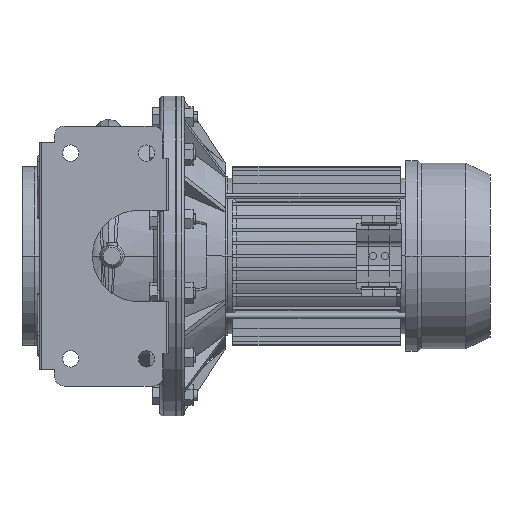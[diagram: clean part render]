
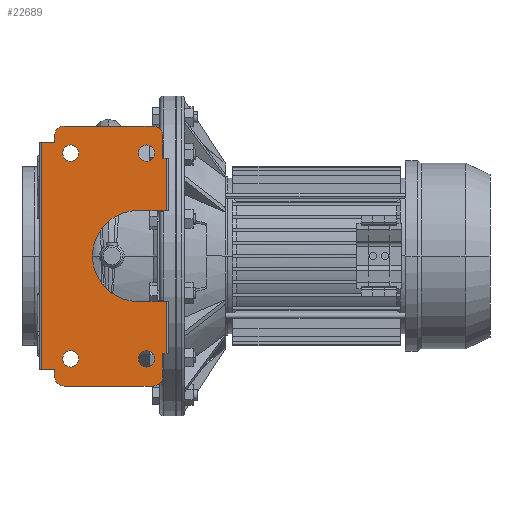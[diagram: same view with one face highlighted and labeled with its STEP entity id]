
A CAD part, front view. The second image highlights one B-rep face of the part: STEP entity #22689.
In plain terms, the highlighted planar face has unit normal (0, -1, 0).
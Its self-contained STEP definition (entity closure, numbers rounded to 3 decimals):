
#19076=CARTESIAN_POINT('',(35.,-160.,-95.));
#19077=DIRECTION('',(0.,-1.,0.));
#19078=DIRECTION('',(1.,0.,0.));
#19079=AXIS2_PLACEMENT_3D('',#19076,#19077,#19078);
#19084=CARTESIAN_POINT('',(35.,-160.,-95.));
#19085=DIRECTION('',(0.,-1.,0.));
#19086=DIRECTION('',(-1.,0.,0.));
#19087=AXIS2_PLACEMENT_3D('',#19084,#19085,#19086);
#19092=CARTESIAN_POINT('',(-35.,-160.,-95.));
#19093=DIRECTION('',(0.,-1.,0.));
#19094=DIRECTION('',(1.,0.,0.));
#19095=AXIS2_PLACEMENT_3D('',#19092,#19093,#19094);
#19100=CARTESIAN_POINT('',(-35.,-160.,-95.));
#19101=DIRECTION('',(0.,-1.,0.));
#19102=DIRECTION('',(-1.,0.,0.));
#19103=AXIS2_PLACEMENT_3D('',#19100,#19101,#19102);
#19108=CARTESIAN_POINT('',(35.,-160.,95.));
#19109=DIRECTION('',(0.,-1.,0.));
#19110=DIRECTION('',(1.,0.,0.));
#19111=AXIS2_PLACEMENT_3D('',#19108,#19109,#19110);
#19116=CARTESIAN_POINT('',(35.,-160.,95.));
#19117=DIRECTION('',(0.,-1.,0.));
#19118=DIRECTION('',(-1.,0.,0.));
#19119=AXIS2_PLACEMENT_3D('',#19116,#19117,#19118);
#19124=CARTESIAN_POINT('',(-35.,-160.,95.));
#19125=DIRECTION('',(0.,-1.,0.));
#19126=DIRECTION('',(1.,0.,0.));
#19127=AXIS2_PLACEMENT_3D('',#19124,#19125,#19126);
#19132=CARTESIAN_POINT('',(-35.,-160.,95.));
#19133=DIRECTION('',(0.,-1.,0.));
#19134=DIRECTION('',(-1.,0.,0.));
#19135=AXIS2_PLACEMENT_3D('',#19132,#19133,#19134);
#19140=DIRECTION('',(0.,0.,1.));
#19141=VECTOR('',#19140,48.);
#19142=CARTESIAN_POINT('',(53.,-160.,-90.));
#19143=LINE('',#19142,#19141);
#19147=DIRECTION('',(0.,0.,-1.));
#19148=VECTOR('',#19147,21.);
#19149=CARTESIAN_POINT('',(50.,-160.,-90.));
#19150=LINE('',#19149,#19148);
#19154=CARTESIAN_POINT('',(41.,-160.,-111.));
#19155=DIRECTION('',(0.,-1.,0.));
#19156=DIRECTION('',(0.,0.,-1.));
#19157=AXIS2_PLACEMENT_3D('',#19154,#19155,#19156);
#19162=DIRECTION('',(-1.,0.,0.));
#19163=VECTOR('',#19162,82.);
#19164=CARTESIAN_POINT('',(41.,-160.,-120.));
#19165=LINE('',#19164,#19163);
#19169=CARTESIAN_POINT('',(-41.,-160.,-111.));
#19170=DIRECTION('',(0.,-1.,0.));
#19171=DIRECTION('',(-1.,0.,0.));
#19172=AXIS2_PLACEMENT_3D('',#19169,#19170,#19171);
#19177=DIRECTION('',(0.,0.,1.));
#19178=VECTOR('',#19177,6.);
#19179=CARTESIAN_POINT('',(-50.,-160.,-111.));
#19180=LINE('',#19179,#19178);
#19184=DIRECTION('',(-1.,0.,0.));
#19185=VECTOR('',#19184,12.);
#19186=CARTESIAN_POINT('',(-50.,-160.,-105.));
#19187=LINE('',#19186,#19185);
#19191=DIRECTION('',(1.,0.,0.));
#19192=VECTOR('',#19191,12.);
#19193=CARTESIAN_POINT('',(-62.,-160.,105.));
#19194=LINE('',#19193,#19192);
#19198=DIRECTION('',(0.,0.,1.));
#19199=VECTOR('',#19198,6.);
#19200=CARTESIAN_POINT('',(-50.,-160.,105.));
#19201=LINE('',#19200,#19199);
#19205=CARTESIAN_POINT('',(-41.,-160.,111.));
#19206=DIRECTION('',(0.,-1.,0.));
#19207=DIRECTION('',(0.,0.,1.));
#19208=AXIS2_PLACEMENT_3D('',#19205,#19206,#19207);
#19213=DIRECTION('',(1.,0.,0.));
#19214=VECTOR('',#19213,82.);
#19215=CARTESIAN_POINT('',(-41.,-160.,120.));
#19216=LINE('',#19215,#19214);
#19220=CARTESIAN_POINT('',(41.,-160.,111.));
#19221=DIRECTION('',(0.,-1.,0.));
#19222=DIRECTION('',(1.,0.,0.));
#19223=AXIS2_PLACEMENT_3D('',#19220,#19221,#19222);
#19228=DIRECTION('',(0.,0.,-1.));
#19229=VECTOR('',#19228,21.);
#19230=CARTESIAN_POINT('',(50.,-160.,111.));
#19231=LINE('',#19230,#19229);
#19235=DIRECTION('',(0.,0.,1.));
#19236=VECTOR('',#19235,48.);
#19237=CARTESIAN_POINT('',(53.,-160.,42.));
#19238=LINE('',#19237,#19236);
#19242=CARTESIAN_POINT('',(27.,-160.,0.));
#19243=DIRECTION('',(0.,-1.,0.));
#19244=DIRECTION('',(0.,0.,1.));
#19245=AXIS2_PLACEMENT_3D('',#19242,#19243,#19244);
#19322=DIRECTION('',(1.,0.,0.));
#19323=VECTOR('',#19322,26.);
#19324=CARTESIAN_POINT('',(27.,-160.,42.));
#19325=LINE('',#19324,#19323);
#19409=DIRECTION('',(-1.,0.,0.));
#19410=VECTOR('',#19409,26.);
#19411=CARTESIAN_POINT('',(53.,-160.,-42.));
#19412=LINE('',#19411,#19410);
#20453=DIRECTION('',(1.,0.,0.));
#20454=VECTOR('',#20453,3.);
#20455=CARTESIAN_POINT('',(50.,-160.,-90.));
#20456=LINE('',#20455,#20454);
#20517=DIRECTION('',(0.,0.,1.));
#20518=VECTOR('',#20517,210.);
#20519=CARTESIAN_POINT('',(-62.,-160.,-105.));
#20520=LINE('',#20519,#20518);
#20575=DIRECTION('',(-1.,0.,0.));
#20576=VECTOR('',#20575,3.);
#20577=CARTESIAN_POINT('',(53.,-160.,90.));
#20578=LINE('',#20577,#20576);
#21746=CARTESIAN_POINT('',(-27.5,-160.,95.));
#21747=CARTESIAN_POINT('',(-42.5,-160.,95.));
#21748=VERTEX_POINT('',#21746);
#21749=VERTEX_POINT('',#21747);
#21750=CARTESIAN_POINT('',(42.5,-160.,95.));
#21751=CARTESIAN_POINT('',(27.5,-160.,95.));
#21752=VERTEX_POINT('',#21750);
#21753=VERTEX_POINT('',#21751);
#21754=CARTESIAN_POINT('',(-27.5,-160.,-95.));
#21755=CARTESIAN_POINT('',(-42.5,-160.,-95.));
#21756=VERTEX_POINT('',#21754);
#21757=VERTEX_POINT('',#21755);
#21758=CARTESIAN_POINT('',(42.5,-160.,-95.));
#21759=CARTESIAN_POINT('',(27.5,-160.,-95.));
#21760=VERTEX_POINT('',#21758);
#21761=VERTEX_POINT('',#21759);
#21762=CARTESIAN_POINT('',(27.,-160.,42.));
#21763=CARTESIAN_POINT('',(27.,-160.,-42.));
#21764=VERTEX_POINT('',#21762);
#21765=VERTEX_POINT('',#21763);
#21782=CARTESIAN_POINT('',(50.,-160.,-90.));
#21784=VERTEX_POINT('',#21782);
#21786=CARTESIAN_POINT('',(-50.,-160.,-105.));
#21788=VERTEX_POINT('',#21786);
#21790=CARTESIAN_POINT('',(-50.,-160.,105.));
#21792=VERTEX_POINT('',#21790);
#21794=CARTESIAN_POINT('',(50.,-160.,90.));
#21796=VERTEX_POINT('',#21794);
#21798=CARTESIAN_POINT('',(-62.,-160.,-105.));
#21799=VERTEX_POINT('',#21798);
#21800=CARTESIAN_POINT('',(-62.,-160.,105.));
#21801=VERTEX_POINT('',#21800);
#21811=CARTESIAN_POINT('',(-50.,-160.,111.));
#21813=VERTEX_POINT('',#21811);
#21816=CARTESIAN_POINT('',(-41.,-160.,120.));
#21817=VERTEX_POINT('',#21816);
#21819=CARTESIAN_POINT('',(41.,-160.,120.));
#21821=VERTEX_POINT('',#21819);
#21824=CARTESIAN_POINT('',(50.,-160.,111.));
#21825=VERTEX_POINT('',#21824);
#21827=CARTESIAN_POINT('',(50.,-160.,-111.));
#21829=VERTEX_POINT('',#21827);
#21832=CARTESIAN_POINT('',(41.,-160.,-120.));
#21833=VERTEX_POINT('',#21832);
#21835=CARTESIAN_POINT('',(-41.,-160.,-120.));
#21837=VERTEX_POINT('',#21835);
#21840=CARTESIAN_POINT('',(-50.,-160.,-111.));
#21841=VERTEX_POINT('',#21840);
#21938=CARTESIAN_POINT('',(53.,-160.,42.));
#21940=VERTEX_POINT('',#21938);
#21942=CARTESIAN_POINT('',(53.,-160.,-42.));
#21944=VERTEX_POINT('',#21942);
#21946=CARTESIAN_POINT('',(53.,-160.,-90.));
#21947=VERTEX_POINT('',#21946);
#21948=CARTESIAN_POINT('',(53.,-160.,90.));
#21949=VERTEX_POINT('',#21948);
#22619=CARTESIAN_POINT('',(55.,-160.,42.));
#22620=DIRECTION('',(0.,1.,0.));
#22621=DIRECTION('',(0.,0.,1.));
#22622=AXIS2_PLACEMENT_3D('',#22619,#22620,#22621);
#22623=PLANE('',#22622);
#22625=ORIENTED_EDGE('',*,*,#22624,.F.);
#22627=ORIENTED_EDGE('',*,*,#22626,.F.);
#22629=ORIENTED_EDGE('',*,*,#22628,.T.);
#22631=ORIENTED_EDGE('',*,*,#22630,.F.);
#22633=ORIENTED_EDGE('',*,*,#22632,.T.);
#22635=ORIENTED_EDGE('',*,*,#22634,.F.);
#22637=ORIENTED_EDGE('',*,*,#22636,.T.);
#22639=ORIENTED_EDGE('',*,*,#22638,.T.);
#22641=ORIENTED_EDGE('',*,*,#22640,.T.);
#22643=ORIENTED_EDGE('',*,*,#22642,.T.);
#22645=ORIENTED_EDGE('',*,*,#22644,.T.);
#22647=ORIENTED_EDGE('',*,*,#22646,.F.);
#22649=ORIENTED_EDGE('',*,*,#22648,.T.);
#22651=ORIENTED_EDGE('',*,*,#22650,.F.);
#22653=ORIENTED_EDGE('',*,*,#22652,.T.);
#22655=ORIENTED_EDGE('',*,*,#22654,.F.);
#22657=ORIENTED_EDGE('',*,*,#22656,.F.);
#22659=ORIENTED_EDGE('',*,*,#22658,.F.);
#22661=ORIENTED_EDGE('',*,*,#22660,.T.);
#22663=ORIENTED_EDGE('',*,*,#22662,.F.);
#22664=EDGE_LOOP('',(#22625,#22627,#22629,#22631,#22633,#22635,#22637,#22639,
#22641,#22643,#22645,#22647,#22649,#22651,#22653,#22655,#22657,#22659,#22661,
#22663));
#22665=FACE_OUTER_BOUND('',#22664,.F.);
#22667=ORIENTED_EDGE('',*,*,#22666,.T.);
#22669=ORIENTED_EDGE('',*,*,#22668,.T.);
#22670=EDGE_LOOP('',(#22667,#22669));
#22671=FACE_BOUND('',#22670,.F.);
#22673=ORIENTED_EDGE('',*,*,#22672,.T.);
#22675=ORIENTED_EDGE('',*,*,#22674,.T.);
#22676=EDGE_LOOP('',(#22673,#22675));
#22677=FACE_BOUND('',#22676,.F.);
#22678=ORIENTED_EDGE('',*,*,#22609,.T.);
#22680=ORIENTED_EDGE('',*,*,#22679,.T.);
#22681=EDGE_LOOP('',(#22678,#22680));
#22682=FACE_BOUND('',#22681,.F.);
#22684=ORIENTED_EDGE('',*,*,#22683,.T.);
#22686=ORIENTED_EDGE('',*,*,#22685,.T.);
#22687=EDGE_LOOP('',(#22684,#22686));
#22688=FACE_BOUND('',#22687,.F.);
#19080=CIRCLE('',#19079,7.5);
#19088=CIRCLE('',#19087,7.5);
#19096=CIRCLE('',#19095,7.5);
#19104=CIRCLE('',#19103,7.5);
#19112=CIRCLE('',#19111,7.5);
#19120=CIRCLE('',#19119,7.5);
#19128=CIRCLE('',#19127,7.5);
#19136=CIRCLE('',#19135,7.5);
#19158=CIRCLE('',#19157,9.);
#19173=CIRCLE('',#19172,9.);
#19209=CIRCLE('',#19208,9.);
#19224=CIRCLE('',#19223,9.);
#19246=CIRCLE('',#19245,42.);
#22609=EDGE_CURVE('',#21748,#21749,#19128,.T.);
#22624=EDGE_CURVE('',#21947,#21944,#19143,.T.);
#22626=EDGE_CURVE('',#21784,#21947,#20456,.T.);
#22628=EDGE_CURVE('',#21784,#21829,#19150,.T.);
#22630=EDGE_CURVE('',#21833,#21829,#19158,.T.);
#22632=EDGE_CURVE('',#21833,#21837,#19165,.T.);
#22634=EDGE_CURVE('',#21841,#21837,#19173,.T.);
#22636=EDGE_CURVE('',#21841,#21788,#19180,.T.);
#22638=EDGE_CURVE('',#21788,#21799,#19187,.T.);
#22640=EDGE_CURVE('',#21799,#21801,#20520,.T.);
#22642=EDGE_CURVE('',#21801,#21792,#19194,.T.);
#22644=EDGE_CURVE('',#21792,#21813,#19201,.T.);
#22646=EDGE_CURVE('',#21817,#21813,#19209,.T.);
#22648=EDGE_CURVE('',#21817,#21821,#19216,.T.);
#22650=EDGE_CURVE('',#21825,#21821,#19224,.T.);
#22652=EDGE_CURVE('',#21825,#21796,#19231,.T.);
#22654=EDGE_CURVE('',#21949,#21796,#20578,.T.);
#22656=EDGE_CURVE('',#21940,#21949,#19238,.T.);
#22658=EDGE_CURVE('',#21764,#21940,#19325,.T.);
#22660=EDGE_CURVE('',#21764,#21765,#19246,.T.);
#22662=EDGE_CURVE('',#21944,#21765,#19412,.T.);
#22666=EDGE_CURVE('',#21756,#21757,#19096,.T.);
#22668=EDGE_CURVE('',#21757,#21756,#19104,.T.);
#22672=EDGE_CURVE('',#21752,#21753,#19112,.T.);
#22674=EDGE_CURVE('',#21753,#21752,#19120,.T.);
#22679=EDGE_CURVE('',#21749,#21748,#19136,.T.);
#22683=EDGE_CURVE('',#21760,#21761,#19080,.T.);
#22685=EDGE_CURVE('',#21761,#21760,#19088,.T.);
#22689=ADVANCED_FACE('',(#22665,#22671,#22677,#22682,#22688),#22623,.F.);
